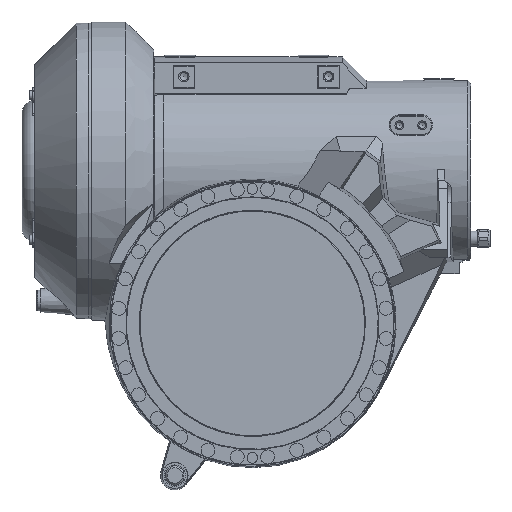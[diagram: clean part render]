
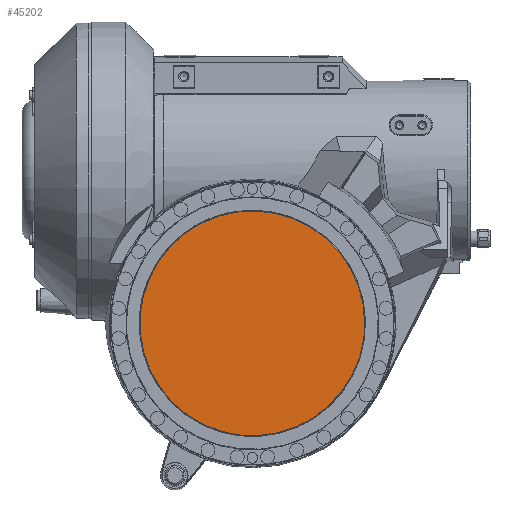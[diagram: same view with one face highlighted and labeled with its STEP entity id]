
A CAD part, front view. The second image highlights one B-rep face of the part: STEP entity #45202.
In plain terms, the highlighted planar face has unit normal (0, -1, 0).
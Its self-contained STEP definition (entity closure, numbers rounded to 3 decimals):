
#3793 = CARTESIAN_POINT ( 'NONE',  ( 690., -265., 1810. ) ) ;
#4208 = CIRCLE ( 'NONE', #38581, 147.5 ) ;
#4426 = DIRECTION ( 'NONE',  ( 0., -1., 0. ) ) ;
#9378 = FACE_OUTER_BOUND ( 'NONE', #39242, .T. ) ;
#12321 = ORIENTED_EDGE ( 'NONE', *, *, #16205, .F. ) ;
#13402 = CARTESIAN_POINT ( 'NONE',  ( 690., -265., 1810. ) ) ;
#16205 = EDGE_CURVE ( 'NONE', #60242, #60242, #4208, .T. ) ;
#18055 = DIRECTION ( 'NONE',  ( 1., 0., 0. ) ) ;
#18420 = CARTESIAN_POINT ( 'NONE',  ( 837.5, -265., 1810. ) ) ;
#27848 = DIRECTION ( 'NONE',  ( 1., 0., 0. ) ) ;
#38581 = AXIS2_PLACEMENT_3D ( 'NONE', #3793, #60415, #27848 ) ;
#39242 = EDGE_LOOP ( 'NONE', ( #12321 ) ) ;
#45202 = ADVANCED_FACE ( 'NONE', ( #9378 ), #59859, .T. ) ;
#57410 = AXIS2_PLACEMENT_3D ( 'NONE', #13402, #4426, #18055 ) ;
#59859 = PLANE ( 'NONE',  #57410 ) ;
#60242 = VERTEX_POINT ( 'NONE', #18420 ) ;
#60415 = DIRECTION ( 'NONE',  ( 0., 1., 0. ) ) ;
